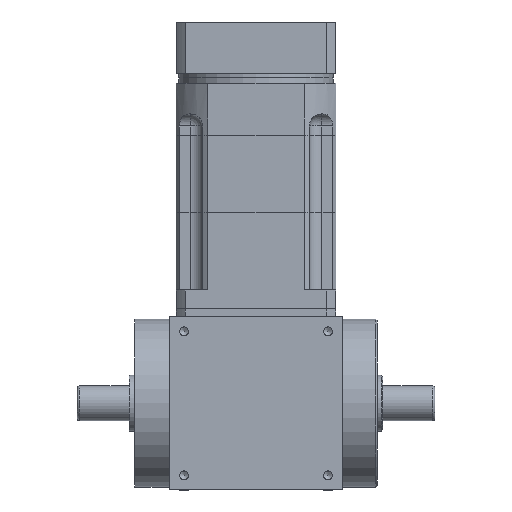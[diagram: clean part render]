
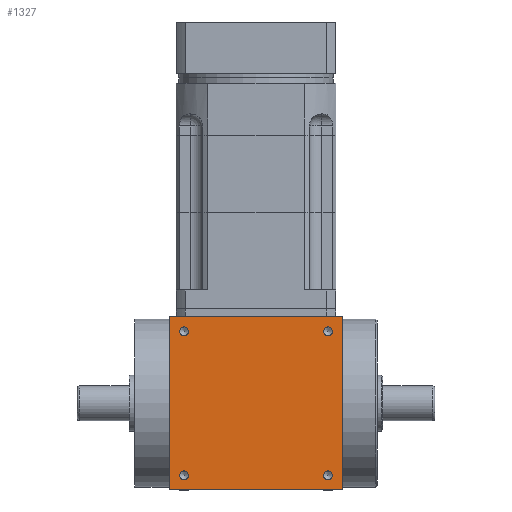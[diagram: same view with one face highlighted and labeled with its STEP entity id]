
A CAD part, left-side view. The second image highlights one B-rep face of the part: STEP entity #1327.
In plain terms, the highlighted planar face has unit normal (-1, 0, 0).
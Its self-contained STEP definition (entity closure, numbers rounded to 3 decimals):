
#598=FACE_BOUND('',#2426,.T.);
#599=FACE_BOUND('',#2427,.T.);
#600=FACE_BOUND('',#2428,.T.);
#601=FACE_BOUND('',#2429,.T.);
#602=FACE_BOUND('',#2430,.T.);
#906=PLANE('',#8860);
#1327=ADVANCED_FACE('',(#598,#599,#600,#601,#602),#906,.T.);
#2426=EDGE_LOOP('',(#5479));
#2427=EDGE_LOOP('',(#5480));
#2428=EDGE_LOOP('',(#5481));
#2429=EDGE_LOOP('',(#5482));
#2430=EDGE_LOOP('',(#5483,#5484,#5485,#5486));
#2872=LINE('',#12988,#3453);
#3089=LINE('',#13808,#3670);
#3090=LINE('',#13810,#3671);
#3091=LINE('',#13812,#3672);
#3453=VECTOR('',#10183,1.);
#3670=VECTOR('',#11022,1.);
#3671=VECTOR('',#11023,1.);
#3672=VECTOR('',#11024,1.);
#5479=ORIENTED_EDGE('',*,*,#7536,.T.);
#5480=ORIENTED_EDGE('',*,*,#7534,.T.);
#5481=ORIENTED_EDGE('',*,*,#7572,.T.);
#5482=ORIENTED_EDGE('',*,*,#7573,.T.);
#5483=ORIENTED_EDGE('',*,*,#7574,.T.);
#5484=ORIENTED_EDGE('',*,*,#7217,.T.);
#5485=ORIENTED_EDGE('',*,*,#7575,.F.);
#5486=ORIENTED_EDGE('',*,*,#7576,.T.);
#6258=VERTEX_POINT('',#12983);
#6260=VERTEX_POINT('',#12987);
#6509=VERTEX_POINT('',#13703);
#6510=VERTEX_POINT('',#13707);
#6551=VERTEX_POINT('',#13805);
#6552=VERTEX_POINT('',#13807);
#6553=VERTEX_POINT('',#13809);
#6554=VERTEX_POINT('',#13811);
#7217=EDGE_CURVE('',#6258,#6260,#2872,.T.);
#7534=EDGE_CURVE('',#6509,#6509,#8035,.T.);
#7536=EDGE_CURVE('',#6510,#6510,#8036,.T.);
#7572=EDGE_CURVE('',#6551,#6551,#8053,.T.);
#7573=EDGE_CURVE('',#6552,#6552,#8054,.T.);
#7574=EDGE_CURVE('',#6553,#6258,#3089,.T.);
#7575=EDGE_CURVE('',#6554,#6260,#3090,.T.);
#7576=EDGE_CURVE('',#6554,#6553,#3091,.T.);
#8035=CIRCLE('',#8798,1.65);
#8036=CIRCLE('',#8801,1.65);
#8053=CIRCLE('',#8858,1.65);
#8054=CIRCLE('',#8859,1.65);
#8798=AXIS2_PLACEMENT_3D('',#13702,#10898,#10899);
#8801=AXIS2_PLACEMENT_3D('',#13706,#10904,#10905);
#8858=AXIS2_PLACEMENT_3D('',#13804,#11018,#11019);
#8859=AXIS2_PLACEMENT_3D('',#13806,#11020,#11021);
#8860=AXIS2_PLACEMENT_3D('',#13813,#11025,#11026);
#10183=DIRECTION('',(0.,1.,0.));
#10898=DIRECTION('',(1.,0.,0.));
#10899=DIRECTION('',(0.,0.,-1.));
#10904=DIRECTION('',(1.,0.,0.));
#10905=DIRECTION('',(0.,0.,-1.));
#11018=DIRECTION('',(1.,0.,0.));
#11019=DIRECTION('',(0.,0.,-1.));
#11020=DIRECTION('',(1.,0.,0.));
#11021=DIRECTION('',(0.,0.,-1.));
#11022=DIRECTION('',(0.,0.,1.));
#11023=DIRECTION('',(0.,0.,1.));
#11024=DIRECTION('',(0.,-1.,0.));
#11025=DIRECTION('',(-1.,0.,0.));
#11026=DIRECTION('',(0.,0.,-1.));
#12983=CARTESIAN_POINT('',(0.,0.,65.));
#12987=CARTESIAN_POINT('',(0.,65.,65.));
#12988=CARTESIAN_POINT('',(0.,32.5,65.));
#13702=CARTESIAN_POINT('',(0.,5.5,5.5));
#13703=CARTESIAN_POINT('',(0.,5.5,3.85));
#13706=CARTESIAN_POINT('',(0.,59.5,5.5));
#13707=CARTESIAN_POINT('',(0.,59.5,3.85));
#13804=CARTESIAN_POINT('',(0.,59.5,59.5));
#13805=CARTESIAN_POINT('',(0.,59.5,57.85));
#13806=CARTESIAN_POINT('',(0.,5.5,59.5));
#13807=CARTESIAN_POINT('',(0.,5.5,57.85));
#13808=CARTESIAN_POINT('',(0.,0.,0.));
#13809=CARTESIAN_POINT('',(0.,0.,0.));
#13810=CARTESIAN_POINT('',(0.,65.,0.));
#13811=CARTESIAN_POINT('',(0.,65.,0.));
#13812=CARTESIAN_POINT('',(0.,32.5,0.));
#13813=CARTESIAN_POINT('',(0.,32.5,0.));
